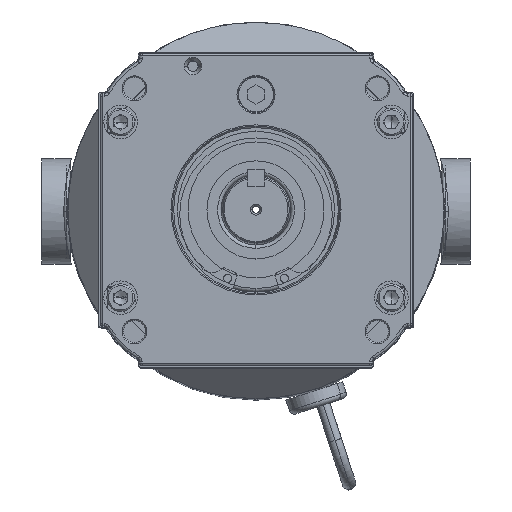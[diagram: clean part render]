
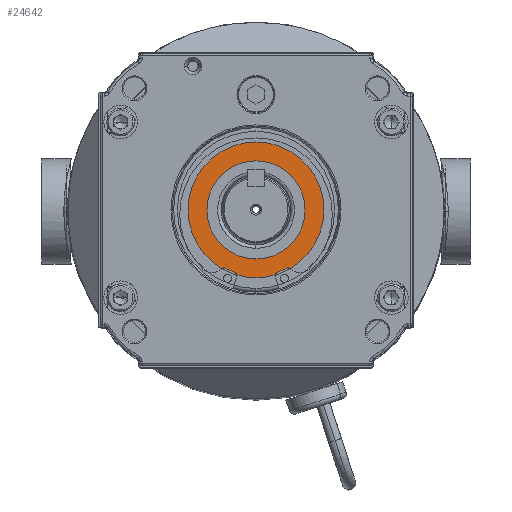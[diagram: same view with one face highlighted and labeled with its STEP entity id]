
A CAD part, top view. The second image highlights one B-rep face of the part: STEP entity #24642.
In plain terms, the highlighted planar face has unit normal (0, 0, 1).
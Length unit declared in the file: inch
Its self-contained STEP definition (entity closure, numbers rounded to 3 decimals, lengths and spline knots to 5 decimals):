
#185 = CARTESIAN_POINT ( 'NONE',  ( 0., 0.55315, 4.08425 ) ) ;
#1032 = DIRECTION ( 'NONE',  ( 0., 0., 1. ) ) ;
#1515 = FACE_BOUND ( 'NONE', #7585, .T. ) ;
#1907 = ORIENTED_EDGE ( 'NONE', *, *, #20136, .F. ) ;
#2111 = DIRECTION ( 'NONE',  ( 0., 1., 0. ) ) ;
#2262 = AXIS2_PLACEMENT_3D ( 'NONE', #27298, #15053, #2111 ) ;
#2883 = DIRECTION ( 'NONE',  ( 0., 0., 1. ) ) ;
#5452 = AXIS2_PLACEMENT_3D ( 'NONE', #8955, #23634, #11178 ) ;
#6125 = AXIS2_PLACEMENT_3D ( 'NONE', #14050, #1032, #16186 ) ;
#7464 = CARTESIAN_POINT ( 'NONE',  ( 0., -0.55315, 4.08425 ) ) ;
#7585 = EDGE_LOOP ( 'NONE', ( #1907, #18390 ) ) ;
#8169 = CIRCLE ( 'NONE', #6125, 0.55315 ) ;
#8211 = CARTESIAN_POINT ( 'NONE',  ( 0., 0., 4.08425 ) ) ;
#8955 = CARTESIAN_POINT ( 'NONE',  ( 0., 0., 4.08425 ) ) ;
#10195 = CARTESIAN_POINT ( 'NONE',  ( 0., -0.76575, 4.08425 ) ) ;
#10446 = DIRECTION ( 'NONE',  ( 0., -1., 0. ) ) ;
#11178 = DIRECTION ( 'NONE',  ( 0., -1., 0. ) ) ;
#11371 = EDGE_LOOP ( 'NONE', ( #16343, #12795 ) ) ;
#11749 = VERTEX_POINT ( 'NONE', #7464 ) ;
#12795 = ORIENTED_EDGE ( 'NONE', *, *, #20616, .T. ) ;
#13110 = AXIS2_PLACEMENT_3D ( 'NONE', #15834, #2883, #17906 ) ;
#13126 = CIRCLE ( 'NONE', #13110, 0.76575 ) ;
#14050 = CARTESIAN_POINT ( 'NONE',  ( 0., 0., 4.08425 ) ) ;
#15053 = DIRECTION ( 'NONE',  ( 0., 0., -1. ) ) ;
#15834 = CARTESIAN_POINT ( 'NONE',  ( 0., 0., 4.08425 ) ) ;
#16186 = DIRECTION ( 'NONE',  ( 0., -1., 0. ) ) ;
#16343 = ORIENTED_EDGE ( 'NONE', *, *, #25191, .T. ) ;
#17527 = CIRCLE ( 'NONE', #5452, 0.55315 ) ;
#17550 = AXIS2_PLACEMENT_3D ( 'NONE', #8211, #22963, #10446 ) ;
#17906 = DIRECTION ( 'NONE',  ( 0., -1., 0. ) ) ;
#18390 = ORIENTED_EDGE ( 'NONE', *, *, #26190, .F. ) ;
#19208 = PLANE ( 'NONE',  #2262 ) ;
#20136 = EDGE_CURVE ( 'NONE', #25162, #11749, #17527, .T. ) ;
#20616 = EDGE_CURVE ( 'NONE', #25295, #22171, #21863, .T. ) ;
#21863 = CIRCLE ( 'NONE', #17550, 0.76575 ) ;
#22171 = VERTEX_POINT ( 'NONE', #24855 ) ;
#22963 = DIRECTION ( 'NONE',  ( 0., 0., 1. ) ) ;
#23475 = FACE_OUTER_BOUND ( 'NONE', #11371, .T. ) ;
#23634 = DIRECTION ( 'NONE',  ( 0., 0., 1. ) ) ;
#24642 = ADVANCED_FACE ( 'NONE', ( #1515, #23475 ), #19208, .F. ) ;
#24855 = CARTESIAN_POINT ( 'NONE',  ( 0., 0.76575, 4.08425 ) ) ;
#25162 = VERTEX_POINT ( 'NONE', #185 ) ;
#25191 = EDGE_CURVE ( 'NONE', #22171, #25295, #13126, .T. ) ;
#25295 = VERTEX_POINT ( 'NONE', #10195 ) ;
#26190 = EDGE_CURVE ( 'NONE', #11749, #25162, #8169, .T. ) ;
#27298 = CARTESIAN_POINT ( 'NONE',  ( 0.55315, 0., 4.08425 ) ) ;
